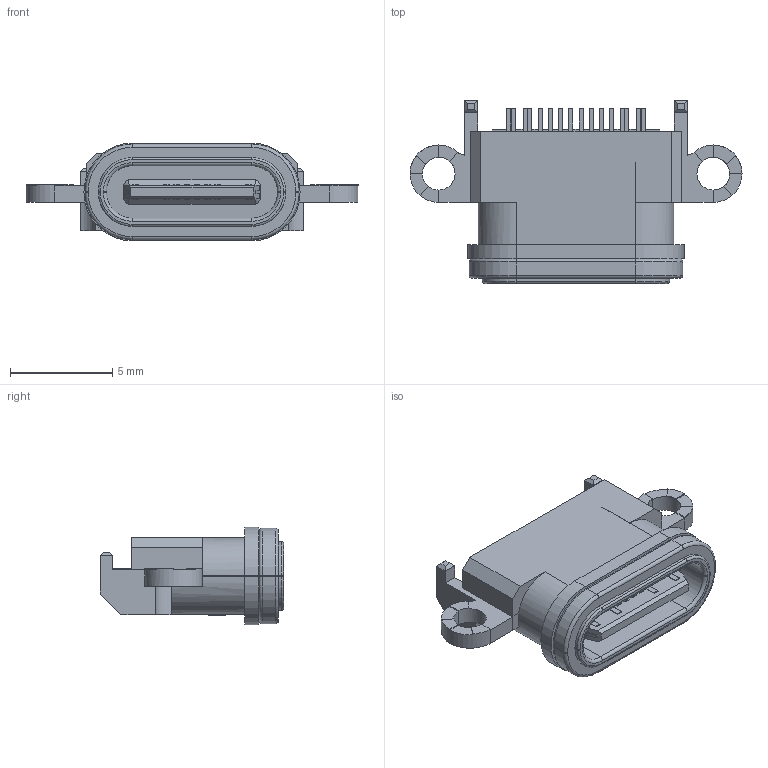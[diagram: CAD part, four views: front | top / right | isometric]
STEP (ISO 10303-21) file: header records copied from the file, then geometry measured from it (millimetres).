
FILE_DESCRIPTION (( 'STEP AP203' ), '1' );
FILE_NAME ('U5301-16PNM1.53C8.93LF.STEP', '2026-09-07T02:48:49', ( '' ), ( '' ), 'SwSTEP 2.0', 'SolidWorks 2024', '' );
FILE_SCHEMA (( 'CONFIG_CONTROL_DESIGN' ));
Length unit declared in the file: millimetre
Products named in the file (1): U5301-16PNM1.53C8.93LF
Bounding box: 16.2 x 8.93 x 4.76 mm (x, y, z)
Volume: 226.7 mm3; surface area: 607.5 mm2
Topology: 2 solids, 8 shells, 596 faces, 1632 edges, 1061 vertices
Faces by surface type: plane 453, cylinder 94, bspline 29, torus 16, cone 4
Entity records: 20331 total; most frequent: CARTESIAN_POINT 5282, ORIENTED_EDGE 3264, DIRECTION 2870, EDGE_CURVE 1632, LINE 1322, VECTOR 1322, VERTEX_POINT 1061, AXIS2_PLACEMENT_3D 774
